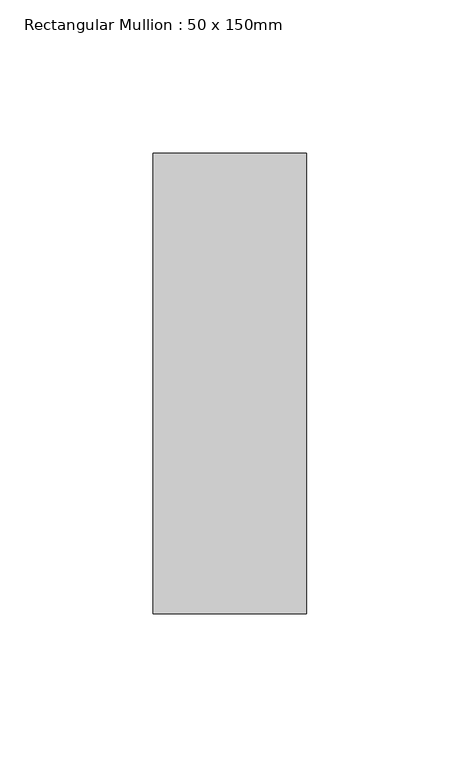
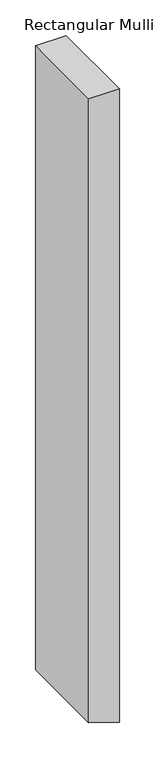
"""IFC4 building model written with IfcOpenShell, lengths in millimetres: member geometry, Rectangular Mullion : 50 x 150mm."""

import ifcopenshell
import ifcopenshell.guid

model = None  # the IFC model being written
_history = None  # IfcOwnerHistory: only IFC2X3 demands one
_inside = {}  # id of a spatial element -> (the spatial element, [elements in it])
_under = {}  # id of a project, library or spatial element -> (it, [spatial elements below it])
_declared = {}  # id of a project -> (the project, [libraries it declares])
_typed = {}  # id of a type object -> (the type object, [elements of that type])
_made_of = {}  # id of a material, layer set ... -> (it, [elements and type objects made of it])


def new_model(schema):
    """Start an empty IFC model of exactly this schema.

    Asked for "IFC4X3", IfcOpenShell would pick the latest addendum, in which some entities
    have other attributes; the version numbers below select the first issue.
    IFC2X3 requires an IfcOwnerHistory on every rooted entity: one is made here for all.
    """
    global model, _history
    if schema == "IFC4X3":
        model = ifcopenshell.file(schema_version=(4, 3, 0, 0))
    else:
        model = ifcopenshell.file(schema=schema)
    _inside.clear()
    _under.clear()
    _declared.clear()
    _typed.clear()
    _made_of.clear()
    _history = None
    if model.schema == "IFC2X3":
        org = make("IfcOrganization", Name="unknown")
        user = make(
            "IfcPersonAndOrganization",
            ThePerson=make("IfcPerson", FamilyName="unknown"),
            TheOrganization=org,
        )
        app = make(
            "IfcApplication",
            ApplicationDeveloper=org,
            Version="unknown",
            ApplicationFullName="unknown",
            ApplicationIdentifier="unknown",
        )
        _history = make(
            "IfcOwnerHistory",
            OwningUser=user,
            OwningApplication=app,
            ChangeAction="ADDED",
            CreationDate=0,
        )
    return model


def make(cls, **values):
    """One entity of the class cls with the attributes given. An attribute that is None is left unset."""
    return model.create_entity(
        cls, **{name: value for name, value in values.items() if value is not None}
    )


def rooted(cls, **values):
    """An entity with a GlobalId (a new one), such as an element, a storey or a relation."""
    return make(cls, GlobalId=ifcopenshell.guid.new(), OwnerHistory=_history, **values)


def si_unit(unit_type, name, prefix=None):
    """IfcSIUnit, for example si_unit("LENGTHUNIT", "METRE", prefix="MILLI")."""
    return make("IfcSIUnit", UnitType=unit_type, Prefix=prefix, Name=name)


def assignment(units):
    """IfcUnitAssignment: the units of a project."""
    return None if units is None else make("IfcUnitAssignment", Units=units)


def point(xyz):
    """IfcCartesianPoint."""
    return None if xyz is None else make("IfcCartesianPoint", Coordinates=xyz)


def direction(xyz):
    """IfcDirection."""
    return None if xyz is None else make("IfcDirection", DirectionRatios=xyz)


def frame(location, z_axis=None, x_axis=None):
    """IfcAxis2Placement3D, a coordinate frame: its origin and axes. An axis left out is left unset."""
    return make(
        "IfcAxis2Placement3D",
        Location=point(location),
        Axis=direction(z_axis),
        RefDirection=direction(x_axis),
    )


def origin():
    """The frame at (0, 0, 0) with its axes left unset."""
    return frame((0.0, 0.0, 0.0))


def place(relative_to, where):
    """IfcLocalPlacement: puts the frame where relative to a parent placement (None: the world)."""
    return make(
        "IfcLocalPlacement", PlacementRelTo=relative_to, RelativePlacement=where
    )


def context(
    kind, dimensions, precision=None, world=None, true_north=None, identifier=None
):
    """IfcGeometricRepresentationContext, for example the 3D "Model" context."""
    return make(
        "IfcGeometricRepresentationContext",
        ContextIdentifier=identifier,
        ContextType=kind,
        CoordinateSpaceDimension=dimensions,
        Precision=precision,
        WorldCoordinateSystem=world,
        TrueNorth=true_north,
    )


def project(units=None, contexts=None):
    """IfcProject with its units and contexts."""
    return rooted(
        "IfcProject",
        Name="project",
        RepresentationContexts=contexts,
        UnitsInContext=assignment(units),
    )


def spatial(cls, under=None, at=None, **own):
    """A site, building, storey or space (cls), placed at a placement, below another one or the project."""
    s = rooted(cls, ObjectPlacement=at, **own)
    if under is not None:
        _under.setdefault(under.id(), (under, []))[1].append(s)
    return s


def polyline(points):
    """IfcPolyline through the points."""
    return make("IfcPolyline", Points=[point(p) for p in points])


def outline(outer, holes=None, kind="AREA"):
    """IfcArbitraryClosedProfileDef: a profile drawn as a closed curve; with holes, ...WithVoids."""
    if holes is None:
        return make("IfcArbitraryClosedProfileDef", ProfileType=kind, OuterCurve=outer)
    return make(
        "IfcArbitraryProfileDefWithVoids",
        ProfileType=kind,
        OuterCurve=outer,
        InnerCurves=holes,
    )


def extrude(swept, where, along, depth):
    """IfcExtrudedAreaSolid: the profile swept, set in the frame where, extruded along a direction by depth."""
    return make(
        "IfcExtrudedAreaSolid",
        SweptArea=swept,
        Position=where,
        ExtrudedDirection=direction(along),
        Depth=depth,
    )


def shape(context_of_items, identifier, shape_type, items):
    """IfcShapeRepresentation: the items that make up one representation, for example the "Body"."""
    return make(
        "IfcShapeRepresentation",
        ContextOfItems=context_of_items,
        RepresentationIdentifier=identifier,
        RepresentationType=shape_type,
        Items=items,
    )


def source(mapping_origin, context_of_items, identifier, shape_type, items):
    """IfcRepresentationMap: a shape defined once, which mapped items show again and again."""
    return make(
        "IfcRepresentationMap",
        MappingOrigin=mapping_origin,
        MappedRepresentation=shape(context_of_items, identifier, shape_type, items),
    )


def transform(
    local_origin,
    x_axis=None,
    y_axis=None,
    z_axis=None,
    scale=None,
    scale2=None,
    scale3=None,
    uniform=True,
):
    """IfcCartesianTransformationOperator3D, or its non-uniform kind. x_axis, y_axis, z_axis: its Axis1, 2, 3."""
    if uniform:
        return make(
            "IfcCartesianTransformationOperator3D",
            Axis1=direction(x_axis),
            Axis2=direction(y_axis),
            LocalOrigin=point(local_origin),
            Scale=scale,
            Axis3=direction(z_axis),
        )
    return make(
        "IfcCartesianTransformationOperator3DnonUniform",
        Axis1=direction(x_axis),
        Axis2=direction(y_axis),
        LocalOrigin=point(local_origin),
        Scale=scale,
        Axis3=direction(z_axis),
        Scale2=scale2,
        Scale3=scale3,
    )


def mapped(mapping_source, mapping_target):
    """IfcMappedItem: shows the shape of a source again, moved by a transform."""
    return make(
        "IfcMappedItem", MappingSource=mapping_source, MappingTarget=mapping_target
    )


def made_of(thing, what):
    """Note that an element or type object is made of a material, layer set ...; save() writes the relation."""
    if what is not None:
        _made_of.setdefault(what.id(), (what, []))[1].append(thing)
    return thing


def element(
    cls,
    number,
    at=None,
    inside=None,
    cuts=None,
    type_object=None,
    material=None,
    context=None,
    identifier="Body",
    shape_type=None,
    held_by="IfcProductDefinitionShape",
    body=None,
    shapes=None,
    **own,
):
    """One element of the class cls, such as IfcWall. Its Tag is "e" and its number.

    at: its placement. inside: the storey or other place that contains it. cuts: it is an
    opening in that element (IfcRelVoidsElement). A single representation is given by context,
    identifier, shape_type and body (its items); several are given by shapes. held_by: the class
    of the entity that holds the representations. save() writes the other relations.
    """
    e = rooted(cls, Tag="e%d" % number, ObjectPlacement=at, **own)
    if body is not None:
        shapes = [shape(context, identifier, shape_type, body)]
    if shapes is not None:
        e.Representation = make(held_by, Representations=shapes)
    if inside is not None:
        _inside.setdefault(inside.id(), (inside, []))[1].append(e)
    if cuts is not None:
        rooted(
            "IfcRelVoidsElement", RelatingBuildingElement=cuts, RelatedOpeningElement=e
        )
    if type_object is not None:
        _typed.setdefault(type_object.id(), (type_object, []))[1].append(e)
    return made_of(e, material)


def aggregate(whole, parts):
    """IfcRelAggregates: a whole, such as a stair, and the parts it consists of."""
    return rooted("IfcRelAggregates", RelatingObject=whole, RelatedObjects=parts)


def save(model, path):
    """Write the relations noted so far, then the file.

    IfcRelAggregates (storeys below a building ...), IfcRelContainedInSpatialStructure (elements
    in a storey), IfcRelDefinesByType, IfcRelAssociatesMaterial and IfcRelDeclares: one each for
    every whole, place, type object, material and project.
    """
    for whole, parts in _under.values():
        aggregate(whole, parts)
    for where, things in _inside.values():
        rooted(
            "IfcRelContainedInSpatialStructure",
            RelatedElements=things,
            RelatingStructure=where,
        )
    for kind, things in _typed.values():
        rooted("IfcRelDefinesByType", RelatedObjects=things, RelatingType=kind)
    for what, things in _made_of.values():
        rooted("IfcRelAssociatesMaterial", RelatedObjects=things, RelatingMaterial=what)
    for by, libraries in _declared.values():
        rooted("IfcRelDeclares", RelatingContext=by, RelatedDefinitions=libraries)
    model.write(path)


def rectangular_mullion_50_x_150mm_d2079c38(model_context):
    return source(origin(), model_context, "Body", "SweptSolid", [
        extrude(outline(polyline([(0.0, 25.0), (0.0, -25.0), (-1071.0384518, -25.0), (-1084.669, 15.8321262), (-1087.7294124, 25.0), (0.0, 25.0)])), frame((0.0, -75.0, 0.0), z_axis=(0.0, 1.0, 0.0), x_axis=(0.0, 0.0, 1.0)), (0.0, 0.0, 1.0), 150.0),
    ])


if __name__ == "__main__":
    model = new_model("IFC4")
    model_context = context("Model", 3, world=origin())
    ifc_project = project(units=[si_unit("LENGTHUNIT", "METRE", prefix="MILLI")], contexts=[model_context])
    site = spatial("IfcSite", under=ifc_project)
    building = spatial("IfcBuilding", under=site)
    placement = place(None, origin())
    rectangular_mullion_50_x_150mm_shape = rectangular_mullion_50_x_150mm_d2079c38(model_context)
    element("IfcMember", 1, ObjectType="Rectangular Mullion : 50 x 150mm", at=placement, inside=building, context=model_context, shape_type="MappedRepresentation", body=[
        mapped(rectangular_mullion_50_x_150mm_shape, transform((0.0, 0.0, 0.0), x_axis=(1.0, 0.0, 0.0), y_axis=(0.0, 1.0, 0.0), z_axis=(0.0, 0.0, 1.0))),
    ])
    save(model, "model.ifc")
